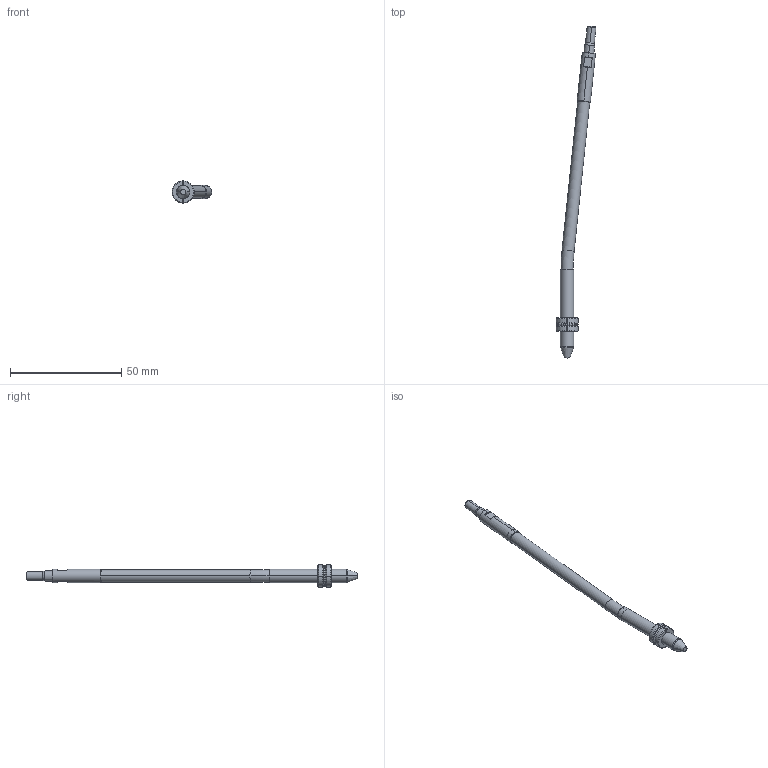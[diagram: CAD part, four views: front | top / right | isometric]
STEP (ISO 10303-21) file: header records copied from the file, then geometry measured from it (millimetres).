
FILE_DESCRIPTION (( 'STEP AP214' ), '1' );
FILE_NAME ('WP060060-EJE 6°.STEP', '2021-03-19T15:16:29', ( '' ), ( '' ), 'SwSTEP 2.0', 'SolidWorks 2019', '' );
FILE_SCHEMA (( 'AUTOMOTIVE_DESIGN' ));
Length unit declared in the file: millimetre
Products named in the file (6): WEB-002-9WP060030-2; WEB-006-9WP060030-6; WEB-001-9WP060030-1; WEB-007-9WP060060-F_WP060060-F-ON 6ø; WP060060-EJE 6°; WEB-008-JUNTA-JT7X1X9
Assembly tree (5 placements, depth 2):
  WP060060-EJE 6°
    WEB-001-9WP060030-1
    WEB-007-9WP060060-F_WP060060-F-ON 6ø
    WEB-002-9WP060030-2
    WEB-006-9WP060030-6
    WEB-008-JUNTA-JT7X1X9
Bounding box: 18 x 149.4 x 9.99 mm (x, y, z)
Volume: 3873.7 mm3; surface area: 3434.2 mm2
Topology: 6 solids, 6 shells, 112 faces, 262 edges, 164 vertices
Faces by surface type: cylinder 36, cone 28, plane 28, torus 20
Entity records: 3723 total; most frequent: CARTESIAN_POINT 714, DIRECTION 598, ORIENTED_EDGE 524, EDGE_CURVE 262, AXIS2_PLACEMENT_3D 256, VERTEX_POINT 164, CIRCLE 136, EDGE_LOOP 116
